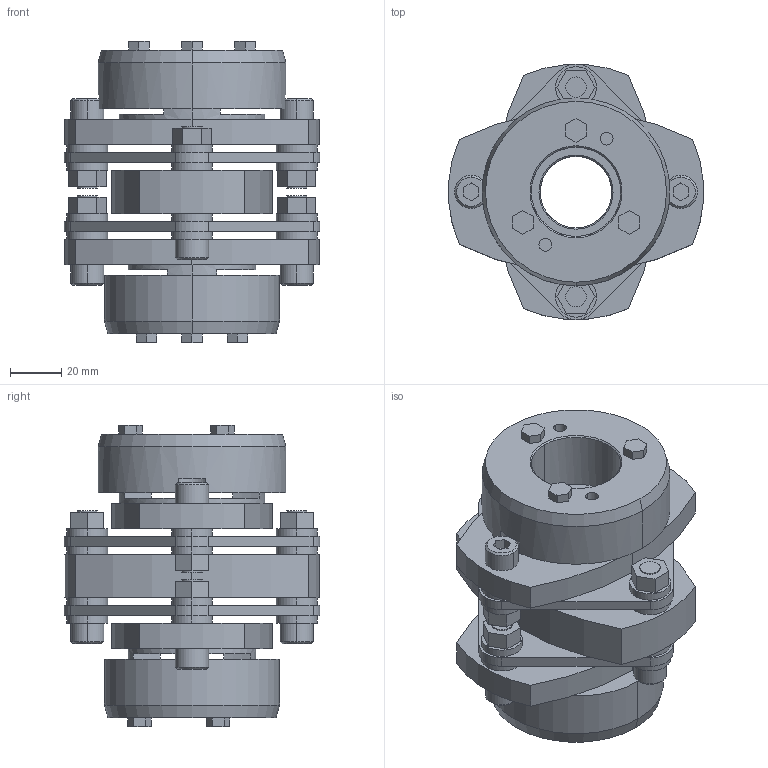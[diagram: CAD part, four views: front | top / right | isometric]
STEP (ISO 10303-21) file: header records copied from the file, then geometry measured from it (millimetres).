
FILE_DESCRIPTION((''),'2;1');
FILE_NAME('LCD-100T7-28×35.stp','2015-11-02T07:34:48',(''),(''),'AutoCAD STEP 2000i','AutoCAD 2000i',', , ');
FILE_SCHEMA(('CONFIG_CONTROL_DESIGN'));
Length unit declared in the file: millimetre
Products named in the file (10): LCD-100T7-28×35; 忣兜1; LC100T7-T028; LC100T7-T035; LC100T7-T030; LC100T7-T025-1; LC100T7-T025; LC100T7-T022-1; LC100T7-T022; LCD100-ITA
Assembly tree (9 placements, depth 2):
  LCD-100T7-28×35
    忣兜1
    LC100T7-T028
    LC100T7-T035
    LC100T7-T030
    LC100T7-T025-1
    LC100T7-T025
    LC100T7-T022-1
    LC100T7-T022
    LCD100-ITA
Bounding box: 100 x 99.93 x 118 mm (x, y, z)
Volume: 367773.1 mm3; surface area: 92524 mm2
Topology: 1 solids, 1 shells, 324 faces, 792 edges, 520 vertices
Faces by surface type: plane 178, cylinder 122, cone 24
Entity records: 9845 total; most frequent: DIRECTION 1748, CARTESIAN_POINT 1646, ORIENTED_EDGE 1584, EDGE_CURVE 792, AXIS2_PLACEMENT_3D 622, VERTEX_POINT 520, VECTOR 504, LINE 504
